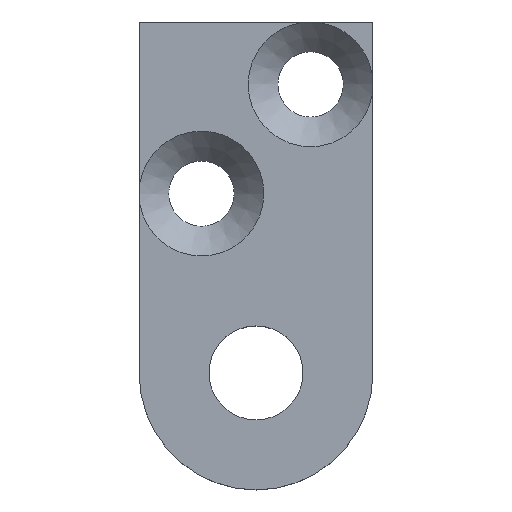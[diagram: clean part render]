
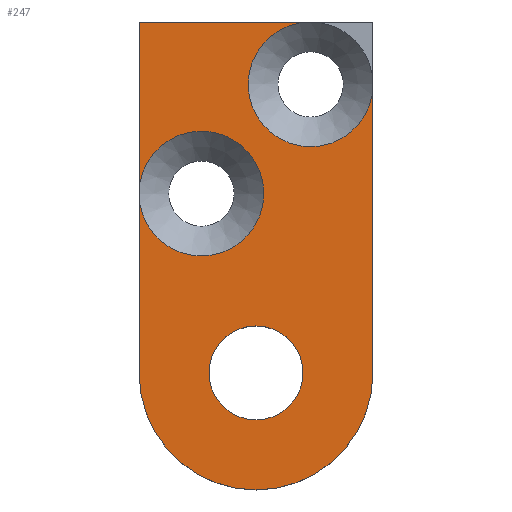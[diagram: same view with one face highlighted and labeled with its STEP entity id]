
A CAD part, top view. The second image highlights one B-rep face of the part: STEP entity #247.
In plain terms, the highlighted planar face has unit normal (0, 0, 1).
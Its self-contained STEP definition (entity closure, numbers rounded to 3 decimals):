
#15=FACE_BOUND('',#44,.T.);
#19=PLANE('',#284);
#31=FACE_OUTER_BOUND('',#43,.T.);
#43=EDGE_LOOP('',(#182,#183,#184,#185,#186,#187,#188,#189));
#44=EDGE_LOOP('',(#190,#191));
#59=LINE('',#409,#77);
#60=LINE('',#410,#78);
#61=LINE('',#412,#79);
#62=LINE('',#415,#80);
#77=VECTOR('',#331,10.);
#78=VECTOR('',#332,10.);
#79=VECTOR('',#333,10.);
#80=VECTOR('',#336,10.);
#93=CIRCLE('',#278,4.);
#98=CIRCLE('',#285,4.);
#99=CIRCLE('',#286,4.);
#100=CIRCLE('',#287,7.5);
#101=CIRCLE('',#288,3.01);
#102=CIRCLE('',#289,3.01);
#111=VERTEX_POINT('',#389);
#116=VERTEX_POINT('',#403);
#117=VERTEX_POINT('',#404);
#118=VERTEX_POINT('',#406);
#119=VERTEX_POINT('',#408);
#120=VERTEX_POINT('',#411);
#121=VERTEX_POINT('',#413);
#122=VERTEX_POINT('',#416);
#123=VERTEX_POINT('',#417);
#135=EDGE_CURVE('',#111,#111,#93,.T.);
#142=EDGE_CURVE('',#116,#117,#98,.T.);
#143=EDGE_CURVE('',#117,#118,#99,.T.);
#144=EDGE_CURVE('',#118,#119,#59,.T.);
#145=EDGE_CURVE('',#119,#111,#60,.T.);
#146=EDGE_CURVE('',#111,#120,#61,.T.);
#147=EDGE_CURVE('',#120,#121,#100,.T.);
#148=EDGE_CURVE('',#121,#116,#62,.T.);
#149=EDGE_CURVE('',#122,#123,#101,.T.);
#150=EDGE_CURVE('',#123,#122,#102,.T.);
#182=ORIENTED_EDGE('',*,*,#142,.T.);
#183=ORIENTED_EDGE('',*,*,#143,.T.);
#184=ORIENTED_EDGE('',*,*,#144,.T.);
#185=ORIENTED_EDGE('',*,*,#145,.T.);
#186=ORIENTED_EDGE('',*,*,#135,.T.);
#187=ORIENTED_EDGE('',*,*,#146,.T.);
#188=ORIENTED_EDGE('',*,*,#147,.T.);
#189=ORIENTED_EDGE('',*,*,#148,.T.);
#190=ORIENTED_EDGE('',*,*,#149,.T.);
#191=ORIENTED_EDGE('',*,*,#150,.T.);
#247=ADVANCED_FACE('',(#31,#15),#19,.T.);
#278=AXIS2_PLACEMENT_3D('',#390,#311,#312);
#284=AXIS2_PLACEMENT_3D('',#402,#325,#326);
#285=AXIS2_PLACEMENT_3D('',#405,#327,#328);
#286=AXIS2_PLACEMENT_3D('',#407,#329,#330);
#287=AXIS2_PLACEMENT_3D('',#414,#334,#335);
#288=AXIS2_PLACEMENT_3D('',#418,#337,#338);
#289=AXIS2_PLACEMENT_3D('',#419,#339,#340);
#311=DIRECTION('center_axis',(0.,0.,-1.));
#312=DIRECTION('ref_axis',(1.,0.,0.));
#325=DIRECTION('center_axis',(0.,0.,1.));
#326=DIRECTION('ref_axis',(1.,0.,0.));
#327=DIRECTION('center_axis',(0.,0.,-1.));
#328=DIRECTION('ref_axis',(1.,0.,0.));
#329=DIRECTION('center_axis',(0.,0.,-1.));
#330=DIRECTION('ref_axis',(1.,0.,0.));
#331=DIRECTION('',(-1.,0.,0.));
#332=DIRECTION('',(0.,-1.,0.));
#333=DIRECTION('',(0.,-1.,0.));
#334=DIRECTION('center_axis',(0.,0.,1.));
#335=DIRECTION('ref_axis',(-1.,0.,0.));
#336=DIRECTION('',(0.,1.,0.));
#337=DIRECTION('center_axis',(0.,0.,-1.));
#338=DIRECTION('ref_axis',(1.,0.,0.));
#339=DIRECTION('center_axis',(0.,0.,-1.));
#340=DIRECTION('ref_axis',(1.,0.,0.));
#389=CARTESIAN_POINT('',(-7.5,0.25,2.));
#390=CARTESIAN_POINT('Origin',(-3.5,0.25,2.));
#402=CARTESIAN_POINT('Origin',(0.,-3.75,2.));
#403=CARTESIAN_POINT('',(7.5,7.25,2.));
#404=CARTESIAN_POINT('',(-0.5,7.25,2.));
#405=CARTESIAN_POINT('Origin',(3.5,7.25,2.));
#406=CARTESIAN_POINT('',(3.5,11.25,2.));
#407=CARTESIAN_POINT('Origin',(3.5,7.25,2.));
#408=CARTESIAN_POINT('',(-7.5,11.25,2.));
#409=CARTESIAN_POINT('',(7.5,11.25,2.));
#410=CARTESIAN_POINT('',(-7.5,11.25,2.));
#411=CARTESIAN_POINT('',(-7.5,-11.25,2.));
#412=CARTESIAN_POINT('',(-7.5,11.25,2.));
#413=CARTESIAN_POINT('',(7.5,-11.25,2.));
#414=CARTESIAN_POINT('Origin',(0.,-11.25,2.));
#415=CARTESIAN_POINT('',(7.5,-11.25,2.));
#416=CARTESIAN_POINT('',(3.01,-11.25,2.));
#417=CARTESIAN_POINT('',(-3.01,-11.25,2.));
#418=CARTESIAN_POINT('Origin',(0.,-11.25,2.));
#419=CARTESIAN_POINT('Origin',(0.,-11.25,2.));
